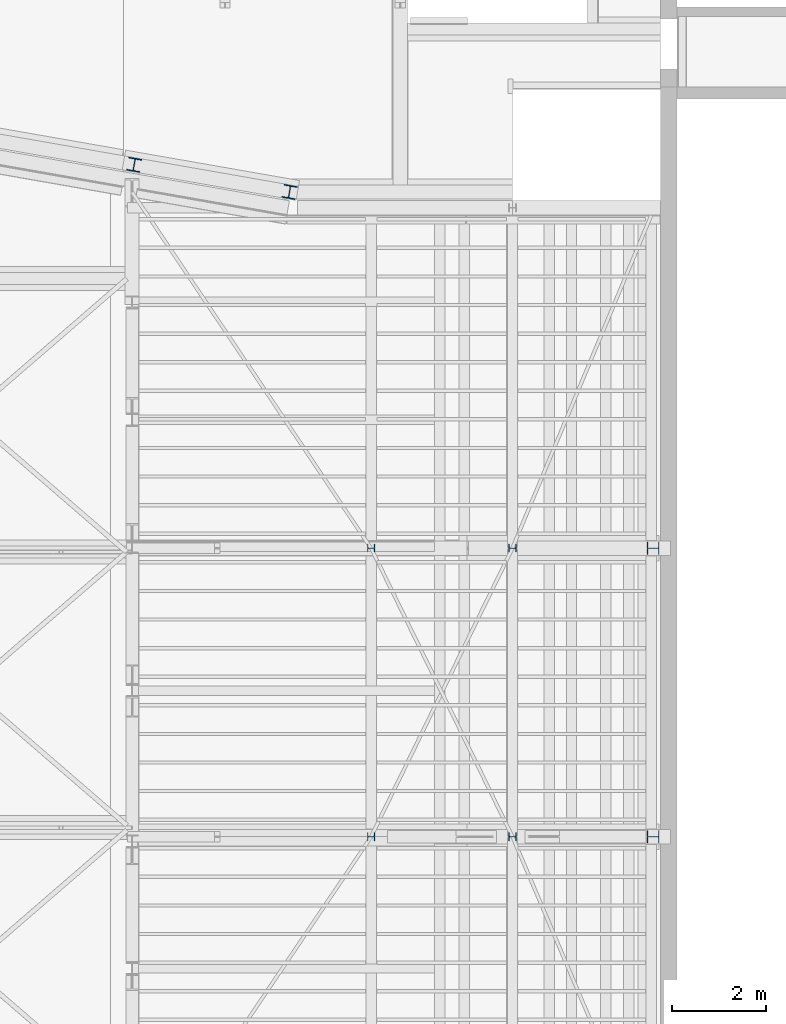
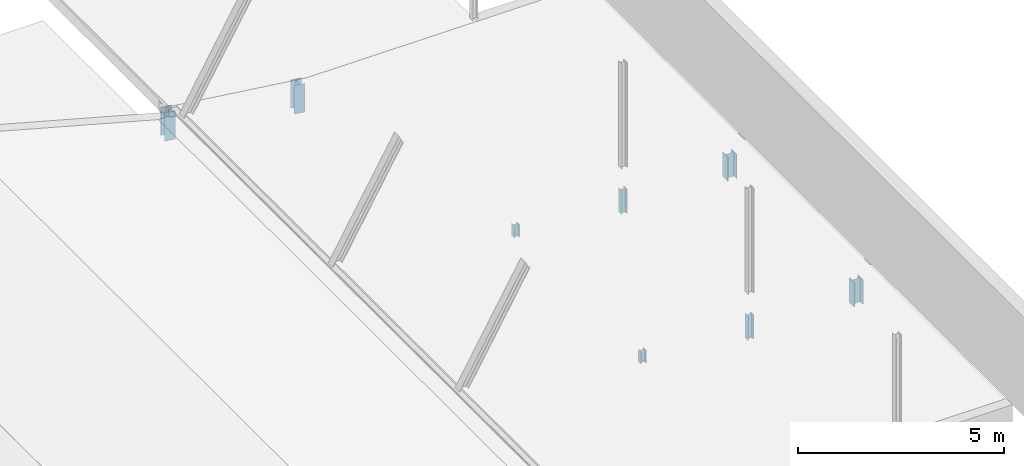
# One storey, part 7 of 50: 8 columns.
"""IFC2X3 building model written with IfcOpenShell, lengths in millimetres."""

from ifc_helpers import new_model, entity, si_unit, converted_unit, derived_unit, direction, frame, frame_2d, origin, place, context, subcontext, project, spatial, polyline, circle_curve, parameter, trimmed, segment, composite_curve, i_section, outline, extrude, clip, halfspace, source, transform, mapped, material, type_object, type_shapes, element, save


model = new_model("IFC2X3")

# Units and contexts
model_context = context("Model", 3, precision=0.01, world=origin(), true_north=direction((6.12303176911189e-17, 1.0)))
body_context = subcontext(model_context, "Body", "Model", "MODEL_VIEW")
ifc_project = project(units=[si_unit("LENGTHUNIT", "METRE", prefix="MILLI"), si_unit("AREAUNIT", "SQUARE_METRE", prefix="MILLI"), si_unit("VOLUMEUNIT", "CUBIC_METRE"), converted_unit("PLANEANGLEUNIT", "DEGREE", entity("IfcRatioMeasure", 0.0174532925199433), si_unit("PLANEANGLEUNIT", "RADIAN"), dimensions=[0, 0, 0, 0, 0, 0, 0]), si_unit("MASSUNIT", "GRAM", prefix="KILO"), derived_unit("MASSDENSITYUNIT", [(si_unit("MASSUNIT", "GRAM", prefix="KILO"), 1), (si_unit("LENGTHUNIT", "METRE"), -3)]), derived_unit("MOMENTOFINERTIAUNIT", [(si_unit("LENGTHUNIT", "METRE"), 4)]), si_unit("TIMEUNIT", "SECOND"), si_unit("FREQUENCYUNIT", "HERTZ"), si_unit("THERMODYNAMICTEMPERATUREUNIT", "DEGREE_CELSIUS"), derived_unit("THERMALTRANSMITTANCEUNIT", [(si_unit("MASSUNIT", "GRAM", prefix="KILO"), 1), (si_unit("THERMODYNAMICTEMPERATUREUNIT", "KELVIN"), -1), (si_unit("TIMEUNIT", "SECOND"), -3)]), derived_unit("VOLUMETRICFLOWRATEUNIT", [(si_unit("LENGTHUNIT", "METRE"), 3), (si_unit("TIMEUNIT", "SECOND"), -1)]), si_unit("ELECTRICCURRENTUNIT", "AMPERE"), si_unit("ELECTRICVOLTAGEUNIT", "VOLT"), si_unit("POWERUNIT", "WATT"), si_unit("FORCEUNIT", "NEWTON", prefix="KILO"), si_unit("ILLUMINANCEUNIT", "LUX"), si_unit("LUMINOUSFLUXUNIT", "LUMEN"), si_unit("LUMINOUSINTENSITYUNIT", "CANDELA"), derived_unit("USERDEFINED", [(si_unit("MASSUNIT", "GRAM", prefix="KILO"), -1), (si_unit("LENGTHUNIT", "METRE"), -2), (si_unit("TIMEUNIT", "SECOND"), 3), (si_unit("LUMINOUSFLUXUNIT", "LUMEN"), 1)]), derived_unit("LINEARVELOCITYUNIT", [(si_unit("LENGTHUNIT", "METRE"), 1), (si_unit("TIMEUNIT", "SECOND"), -1)]), si_unit("PRESSUREUNIT", "PASCAL"), derived_unit("USERDEFINED", [(si_unit("LENGTHUNIT", "METRE"), -2), (si_unit("MASSUNIT", "GRAM", prefix="KILO"), 1), (si_unit("TIMEUNIT", "SECOND"), -2)]), derived_unit("LINEARFORCEUNIT", [(si_unit("MASSUNIT", "GRAM", prefix="KILO"), 1), (si_unit("LENGTHUNIT", "METRE"), 1), (si_unit("TIMEUNIT", "SECOND"), -2), (si_unit("LENGTHUNIT", "METRE"), -1)]), derived_unit("PLANARFORCEUNIT", [(si_unit("MASSUNIT", "GRAM", prefix="KILO"), 1), (si_unit("LENGTHUNIT", "METRE"), 1), (si_unit("TIMEUNIT", "SECOND"), -2), (si_unit("LENGTHUNIT", "METRE"), -2)])], contexts=[model_context])

# Site, building, storey
site_placement = place(None, origin())
site = spatial("IfcSite", under=ifc_project, at=site_placement, Name="Theater aan de Parade", CompositionType="ELEMENT")
building_placement = place(site_placement, origin())
building = spatial("IfcBuilding", under=site, at=building_placement, Name="Theater aan de Parade", CompositionType="ELEMENT")
storey_placement = place(building_placement, frame((0.0, 0.0, 15820.0)))
storey = spatial("IfcBuildingStorey", under=building, at=storey_placement, Name="04 vierde verdieping", CompositionType="ELEMENT", Elevation=15820.0)

# Columns
ifc_material = material(Name="00_PBT_MAT_staal_S355")
column_type_1 = type_object("IfcColumnType", Name="28_PBT_SC_staal_H-profiel:S355_HE280B", PredefinedType="COLUMN", material=ifc_material)
shared_shape_1 = source(origin(), body_context, "Body", "SweptSolid", [
    extrude(outline(composite_curve([segment(polyline([(122.0, -140.0), (140.0, -140.0)]), True, "CONTINUOUS"), segment(polyline([(140.0, -140.0), (140.0, 140.0)]), True, "CONTINUOUS"), segment(polyline([(140.0, 140.0), (122.0, 140.0)]), True, "CONTINUOUS"), segment(polyline([(122.0, 140.0), (122.0, 29.25)]), True, "CONTINUOUS"), segment(trimmed(circle_curve(frame_2d((98.0, 29.25), x_axis=(1.0, 0.0)), 23.9999999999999), [parameter(269.999999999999)], [parameter(0.0)], True, "PARAMETER"), False, "CONTINUOUS"), segment(polyline([(98.0, 5.25000000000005), (-98.0, 5.25)]), True, "CONTINUOUS"), segment(trimmed(circle_curve(frame_2d((-98.0, 29.25), x_axis=(0.0, -1.0)), 24.0), [parameter(270.0)], [parameter(0.0)], True, "PARAMETER"), False, "CONTINUOUS"), segment(polyline([(-122.0, 29.2499999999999), (-122.0, 140.0)]), True, "CONTINUOUS"), segment(polyline([(-122.0, 140.0), (-140.0, 140.0)]), True, "CONTINUOUS"), segment(polyline([(-140.0, 140.0), (-140.0, -140.0)]), True, "CONTINUOUS"), segment(polyline([(-140.0, -140.0), (-122.0, -140.0)]), True, "CONTINUOUS"), segment(polyline([(-122.0, -140.0), (-122.0, -29.2500000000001)]), True, "CONTINUOUS"), segment(trimmed(circle_curve(frame_2d((-98.0, -29.25), x_axis=(-1.0, 0.0)), 24.0), [parameter(270.0)], [parameter(0.0)], True, "PARAMETER"), False, "CONTINUOUS"), segment(polyline([(-98.0, -5.25), (98.0, -5.24999999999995)]), True, "CONTINUOUS"), segment(trimmed(circle_curve(frame_2d((98.0, -29.2499999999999), x_axis=(0.0, 1.0)), 23.9999999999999), [parameter(270.0)], [parameter(0.0)], True, "PARAMETER"), False, "CONTINUOUS"), segment(polyline([(122.0, -29.25), (122.0, -140.0)]), True, "CONTINUOUS")], self_intersect=False)), frame((0.0, 0.0, 16130.0), z_axis=(0.0, 0.0, 1.0), x_axis=(0.0, -1.0, 0.0)), (0.0, 0.0, 1.0), 840.0),
])
type_shapes(column_type_1, [shared_shape_1])
for number, where, z_axis, x_axis in (
    (1, (56185.6044607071, 43612.1397766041, -15820.0), (0.0, 0.0, 1.0), (0.985030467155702, -0.172380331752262, 0.0)),
    (2, (59483.5460413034, 43035.0, -15820.0), (0.0, 0.0, 1.0), (0.985030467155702, -0.172380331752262, 0.0)),
):
    element("IfcColumn", number, at=place(storey_placement, frame(where, z_axis=z_axis, x_axis=x_axis)), inside=storey, type_object=column_type_1, material=ifc_material, Name="28_PBT_SC_staal_H-profiel:S355_HE280B", ObjectType="28_PBT_SC_staal_H-profiel:S355_HE280B", context=body_context, shape_type="MappedRepresentation", body=[
        mapped(shared_shape_1, transform((0.0, 0.0, 0.0), scale=1.0)),
    ])
column_type_2 = type_object("IfcColumnType", Name="28_PBT_SC_staal_H-profiel:S355_HE160A", PredefinedType="COLUMN", material=ifc_material)
shared_shape_2 = source(origin(), body_context, "Body", "SweptSolid", [
    extrude(outline(composite_curve([segment(polyline([(67.0, -80.0), (76.0, -80.0)]), True, "CONTINUOUS"), segment(polyline([(76.0, -80.0), (76.0, 80.0)]), True, "CONTINUOUS"), segment(polyline([(76.0, 80.0), (67.0, 80.0)]), True, "CONTINUOUS"), segment(polyline([(67.0, 80.0), (67.0, 18.0)]), True, "CONTINUOUS"), segment(trimmed(circle_curve(frame_2d((52.0, 18.0), x_axis=(1.0, 0.0)), 15.0), [parameter(270.0)], [parameter(0.0)], True, "PARAMETER"), False, "CONTINUOUS"), segment(polyline([(52.0, 3.0), (-52.0, 3.0)]), True, "CONTINUOUS"), segment(trimmed(circle_curve(frame_2d((-52.0, 18.0), x_axis=(0.0, -1.0)), 15.0), [parameter(270.0)], [parameter(0.0)], True, "PARAMETER"), False, "CONTINUOUS"), segment(polyline([(-67.0, 18.0), (-67.0, 80.0)]), True, "CONTINUOUS"), segment(polyline([(-67.0, 80.0), (-76.0, 80.0)]), True, "CONTINUOUS"), segment(polyline([(-76.0, 80.0), (-76.0, -80.0)]), True, "CONTINUOUS"), segment(polyline([(-76.0, -80.0), (-67.0, -80.0)]), True, "CONTINUOUS"), segment(polyline([(-67.0, -80.0), (-67.0, -18.0)]), True, "CONTINUOUS"), segment(trimmed(circle_curve(frame_2d((-52.0, -18.0), x_axis=(-1.0, 0.0)), 15.0), [parameter(270.0)], [parameter(0.0)], True, "PARAMETER"), False, "CONTINUOUS"), segment(polyline([(-52.0, -3.0), (52.0, -3.0)]), True, "CONTINUOUS"), segment(trimmed(circle_curve(frame_2d((52.0, -18.0), x_axis=(0.0, 1.0)), 15.0), [parameter(270.0)], [parameter(0.0)], True, "PARAMETER"), False, "CONTINUOUS"), segment(polyline([(67.0, -18.0), (67.0, -80.0)]), True, "CONTINUOUS")], self_intersect=False)), frame((0.0, 0.0, 16020.0), z_axis=(0.0, 0.0, 1.0), x_axis=(0.0, -1.0, 0.0)), (0.0, 0.0, 1.0), 720.000000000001),
])
type_shapes(column_type_2, [shared_shape_2])
for number, where, z_axis, x_axis in (
    (3, (64216.05603639, 29346.916549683, -15820.0), (0.0, 0.0, 1.0), (0.0, 1.0, 0.0)),
    (4, (64216.05603639, 35472.499995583, -15820.0), (0.0, 0.0, 1.0), (0.0, 1.0, 0.0)),
):
    element("IfcColumn", number, at=place(storey_placement, frame(where, z_axis=z_axis, x_axis=x_axis)), inside=storey, type_object=column_type_2, material=ifc_material, Name="28_PBT_SC_staal_H-profiel:S355_HE160A", ObjectType="28_PBT_SC_staal_H-profiel:S355_HE160A", context=body_context, shape_type="MappedRepresentation", body=[
        mapped(shared_shape_2, transform((0.0, 0.0, 0.0), scale=1.0)),
    ])
column_type_3 = type_object("IfcColumnType", Name="28_PBT_SC_staal_H-profiel:S355_HE160A", PredefinedType="COLUMN", material=ifc_material)
shared_shape_3 = source(origin(), body_context, "Body", "Clipping", [
    clip(extrude(i_section(OverallWidth=159.999999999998, OverallDepth=152.0, WebThickness=6.00000000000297, FlangeThickness=9.00000000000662, FilletRadius=14.9999999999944, at=frame_2d((-6.49436060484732e-12, 0.0), x_axis=(1.0, 0.0))), frame((61216.05603639, 29346.916549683, 16355.5110428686), z_axis=(0.0, 0.0, 1.0), x_axis=(0.0, -1.0, 0.0)), (0.0, 0.0, 1.0), 384.488957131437), halfspace(frame((56304.1227854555, 29176.916549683, 17145.5220591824), z_axis=(-0.156434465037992, 0.0, -0.987688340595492), x_axis=(0.987688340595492, 0.0, -0.156434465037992)), False)),
])
type_shapes(column_type_3, [shared_shape_3])
column_1_placement = place(storey_placement, frame((0.0, 0.0, -15820.0)))
element("IfcColumn", 5, at=column_1_placement, inside=storey, type_object=column_type_3, material=ifc_material, Name="28_PBT_SC_staal_H-profiel:S355_HE160A", ObjectType="28_PBT_SC_staal_H-profiel:S355_HE160A", context=body_context, shape_type="MappedRepresentation", body=[
    mapped(shared_shape_3, transform((0.0, 0.0, 0.0), scale=1.0)),
])
column_type_4 = type_object("IfcColumnType", Name="28_PBT_SC_staal_H-profiel:S355_HE160A", PredefinedType="COLUMN", material=ifc_material)
shared_shape_4 = source(origin(), body_context, "Body", "Clipping", [
    clip(extrude(i_section(OverallWidth=159.999999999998, OverallDepth=152.0, WebThickness=6.00000000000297, FlangeThickness=9.00000000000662, FilletRadius=14.9999999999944, at=frame_2d((-6.49436060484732e-12, 0.0), x_axis=(1.0, 0.0))), frame((61216.05603639, 35472.499995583, 16355.5110428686), z_axis=(0.0, 0.0, 1.0), x_axis=(0.0, -1.0, 0.0)), (0.0, 0.0, 1.0), 384.488957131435), halfspace(frame((56304.1227854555, 35302.499995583, 17145.5220591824), z_axis=(-0.156434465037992, 0.0, -0.987688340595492), x_axis=(0.987688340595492, 0.0, -0.156434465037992)), False)),
])
type_shapes(column_type_4, [shared_shape_4])
column_2_placement = place(storey_placement, frame((0.0, 0.0, -15820.0)))
element("IfcColumn", 6, at=column_2_placement, inside=storey, type_object=column_type_4, material=ifc_material, Name="28_PBT_SC_staal_H-profiel:S355_HE160A", ObjectType="28_PBT_SC_staal_H-profiel:S355_HE160A", context=body_context, shape_type="MappedRepresentation", body=[
    mapped(shared_shape_4, transform((0.0, 0.0, 0.0), scale=1.0)),
])
column_type_5 = type_object("IfcColumnType", Name="28_PBT_SC_staal_H-profiel:S355_HE260B", PredefinedType="COLUMN", material=ifc_material)
shared_shape_5 = source(origin(), body_context, "Body", "SweptSolid", [
    extrude(outline(composite_curve([segment(polyline([(112.5, -130.0), (130.0, -130.0)]), True, "CONTINUOUS"), segment(polyline([(130.0, -130.0), (130.0, 130.0)]), True, "CONTINUOUS"), segment(polyline([(130.0, 130.0), (112.499999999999, 130.0)]), True, "CONTINUOUS"), segment(polyline([(112.499999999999, 130.0), (112.499999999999, 29.0)]), True, "CONTINUOUS"), segment(trimmed(circle_curve(frame_2d((88.4999999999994, 29.0), x_axis=(1.0, 0.0)), 24.0), [parameter(269.999999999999)], [parameter(0.0)], True, "PARAMETER"), False, "CONTINUOUS"), segment(polyline([(88.4999999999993, 5.0), (-88.5000000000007, 5.0)]), True, "CONTINUOUS"), segment(trimmed(circle_curve(frame_2d((-88.5000000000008, 29.0), x_axis=(0.0, -1.0)), 24.0), [parameter(270.0)], [parameter(0.0)], True, "PARAMETER"), False, "CONTINUOUS"), segment(polyline([(-112.500000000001, 29.0), (-112.500000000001, 130.0)]), True, "CONTINUOUS"), segment(polyline([(-112.500000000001, 130.0), (-130.0, 130.0)]), True, "CONTINUOUS"), segment(polyline([(-130.0, 130.0), (-130.0, -130.0)]), True, "CONTINUOUS"), segment(polyline([(-130.0, -130.0), (-112.5, -130.0)]), True, "CONTINUOUS"), segment(polyline([(-112.5, -130.0), (-112.5, -29.0)]), True, "CONTINUOUS"), segment(trimmed(circle_curve(frame_2d((-88.4999999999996, -29.0), x_axis=(-1.0, 0.0)), 24.0), [parameter(270.0)], [parameter(0.0)], True, "PARAMETER"), False, "CONTINUOUS"), segment(polyline([(-88.4999999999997, -5.0), (88.5000000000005, -5.0)]), True, "CONTINUOUS"), segment(trimmed(circle_curve(frame_2d((88.5000000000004, -29.0), x_axis=(0.0, 1.0)), 24.0), [parameter(270.0)], [parameter(0.0)], True, "PARAMETER"), False, "CONTINUOUS"), segment(polyline([(112.5, -29.0), (112.5, -130.0)]), True, "CONTINUOUS")], self_intersect=False)), frame((0.0, 0.0, 16020.0), z_axis=(0.0, 0.0, 1.0), x_axis=(0.0, -1.0, 0.0)), (0.0, 0.0, 1.0), 720.000000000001),
])
type_shapes(column_type_5, [shared_shape_5])
for number, where, z_axis, x_axis in (
    (7, (67201.2561009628, 35472.499995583, -15820.0), (0.0, 0.0, 1.0), (0.0, 1.0, 0.0)),
    (8, (67201.2561009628, 29346.916549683, -15820.0), (0.0, 0.0, 1.0), (0.0, 1.0, 0.0)),
):
    element("IfcColumn", number, at=place(storey_placement, frame(where, z_axis=z_axis, x_axis=x_axis)), inside=storey, type_object=column_type_5, material=ifc_material, Name="28_PBT_SC_staal_H-profiel:S355_HE260B", ObjectType="28_PBT_SC_staal_H-profiel:S355_HE260B", context=body_context, shape_type="MappedRepresentation", body=[
        mapped(shared_shape_5, transform((0.0, 0.0, 0.0), scale=1.0)),
    ])

save(model, "model.ifc")
